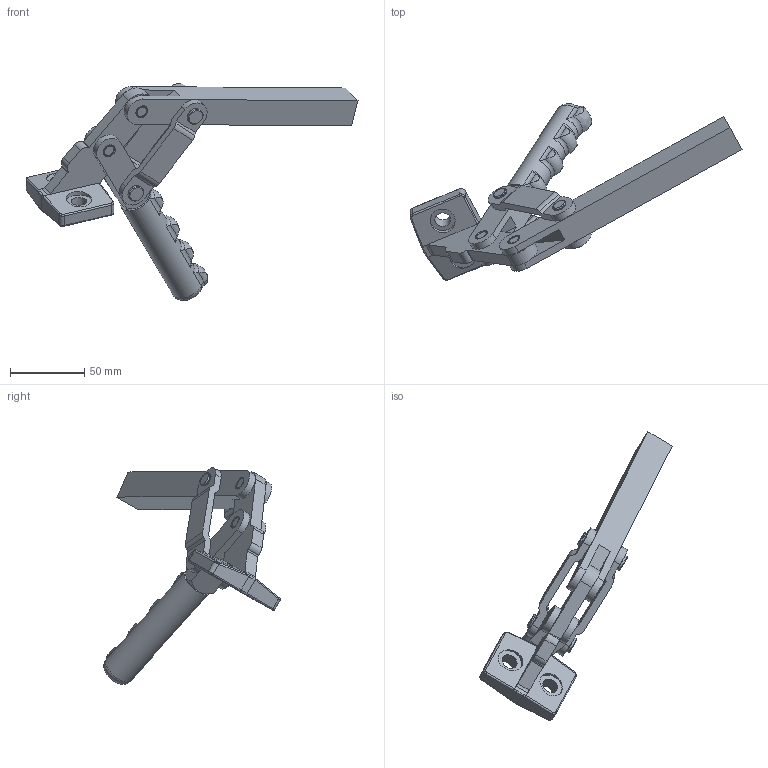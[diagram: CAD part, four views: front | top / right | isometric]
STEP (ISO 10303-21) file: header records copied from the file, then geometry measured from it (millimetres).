
FILE_DESCRIPTION(/* description */ ('STEP AP203'),/* implementation_level */ '2;1');
FILE_NAME(/* name */ 'D:\Vault_2016\Projekty\NASZ KATALOG\CLAMPTEK\STRONA\Heavy duty weldables\CH-75027\CH-75027_OTWARTY.stp',/* time_stamp */ '2019-01-21T11:19:43+01:00',/* author */ ('CADENGINEERING4'),/* organization */ ('Microsoft'),/* preprocessor_version */ 'ST-DEVELOPER v17.2',/* originating_system */ 'Autodesk Inventor 2019',/* authorisation */ '');
FILE_SCHEMA (('AUTOMOTIVE_DESIGN { 1 0 10303 214 3 1 1 }'));
Length unit declared in the file: millimetre
Products named in the file (8): CH-75027_OTWARTY; dizuo; Ñ¹°Ñ; ÊÖ°Ñ; Á¬¸Ë; ÊµÃ­¶¤; ÊÖ°ÑÌ×; Ïú
Assembly tree (10 placements, depth 2):
  CH-75027_OTWARTY
    dizuo
    Ñ¹°Ñ
    ÊÖ°Ñ
    Á¬¸Ë  x2
    Ïú  x2
    ÊµÃ­¶¤  x2
    ÊÖ°ÑÌ×
Bounding box: 224.22 x 119.34 x 146.48 mm (x, y, z)
Volume: 167905.8 mm3; surface area: 63982.8 mm2
Topology: 10 solids, 10 shells, 1219 faces, 3579 edges, 2391 vertices
Faces by surface type: plane 800, cylinder 340, torus 46, cone 22, bspline 11
Full cylindrical faces by diameter (mm): 8 x16, 10.6 x2, 11 x2, 17 x2, 19 x1, 22 x1
Entity records: 24632 total; most frequent: CARTESIAN_POINT 5533, ORIENTED_EDGE 4076, DIRECTION 4013, EDGE_CURVE 2038, AXIS2_PLACEMENT_3D 1468, VERTEX_POINT 1361, LINE 1077, VECTOR 1077
